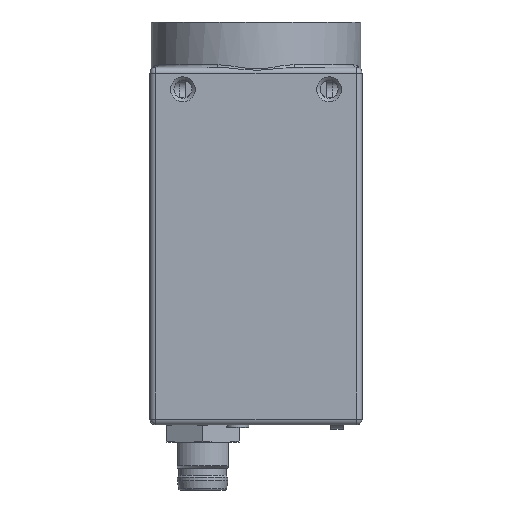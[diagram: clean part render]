
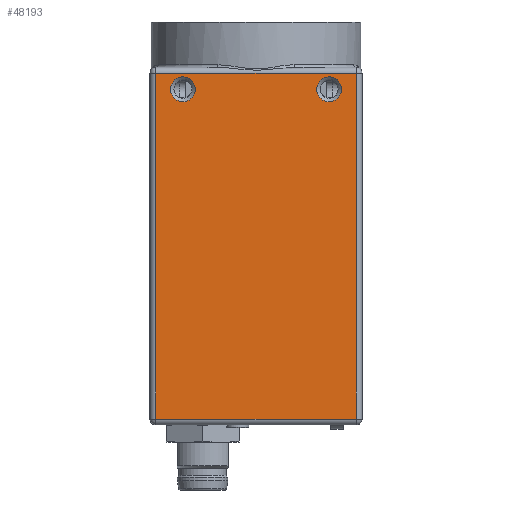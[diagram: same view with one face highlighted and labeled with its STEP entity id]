
A CAD part, left-side view. The second image highlights one B-rep face of the part: STEP entity #48193.
In plain terms, the highlighted planar face has unit normal (-1, 0, 0).
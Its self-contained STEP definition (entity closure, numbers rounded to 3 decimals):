
#2110=CIRCLE('',#51340,1.7);
#2111=CIRCLE('',#51342,1.7);
#4814=LINE('',#70978,#7629);
#4827=LINE('',#71024,#7642);
#4853=LINE('',#71155,#7668);
#4888=LINE('',#71269,#7703);
#7629=VECTOR('',#59992,1000.);
#7642=VECTOR('',#60047,1000.);
#7668=VECTOR('',#60151,1000.);
#7703=VECTOR('',#60250,1000.);
#15572=ORIENTED_EDGE('',*,*,#21115,.T.);
#15573=ORIENTED_EDGE('',*,*,#21114,.T.);
#15574=ORIENTED_EDGE('',*,*,#21230,.T.);
#15575=ORIENTED_EDGE('',*,*,#21134,.T.);
#15576=ORIENTED_EDGE('',*,*,#21113,.T.);
#15577=ORIENTED_EDGE('',*,*,#21180,.T.);
#21113=EDGE_CURVE('',#24617,#24643,#4814,.T.);
#21114=EDGE_CURVE('',#24681,#24681,#2110,.T.);
#21115=EDGE_CURVE('',#24682,#24682,#2111,.T.);
#21134=EDGE_CURVE('',#24693,#24617,#4827,.F.);
#21180=EDGE_CURVE('',#24643,#24724,#4853,.T.);
#21230=EDGE_CURVE('',#24724,#24693,#4888,.T.);
#24617=VERTEX_POINT('',#70696);
#24643=VERTEX_POINT('',#70863);
#24681=VERTEX_POINT('',#70981);
#24682=VERTEX_POINT('',#70984);
#24693=VERTEX_POINT('',#71025);
#24724=VERTEX_POINT('',#71154);
#27836=EDGE_LOOP('',(#15572));
#27837=EDGE_LOOP('',(#15573));
#27838=EDGE_LOOP('',(#15574,#15575,#15576,#15577));
#30566=FACE_BOUND('',#27836,.T.);
#30567=FACE_BOUND('',#27837,.T.);
#30568=FACE_BOUND('',#27838,.T.);
#32078=PLANE('',#51430);
#48193=ADVANCED_FACE('',(#30566,#30567,#30568),#32078,.T.);
#51340=AXIS2_PLACEMENT_3D('',#70980,#59995,#59996);
#51342=AXIS2_PLACEMENT_3D('',#70983,#59999,#60000);
#51430=AXIS2_PLACEMENT_3D('',#71268,#60248,#60249);
#59992=DIRECTION('',(0.,1.,0.));
#59995=DIRECTION('',(1.,0.,0.));
#59996=DIRECTION('',(0.,1.,0.));
#59999=DIRECTION('',(1.,0.,0.));
#60000=DIRECTION('',(0.,1.,0.));
#60047=DIRECTION('',(0.,0.,-1.));
#60151=DIRECTION('',(0.,0.,-1.));
#60248=DIRECTION('',(-1.,0.,0.));
#60249=DIRECTION('',(0.,0.,1.));
#60250=DIRECTION('',(0.,-1.,0.));
#70696=CARTESIAN_POINT('',(-14.5,-13.7,11.4));
#70863=CARTESIAN_POINT('',(-14.5,13.7,11.4));
#70978=CARTESIAN_POINT('',(-14.5,14.5,11.4));
#70980=CARTESIAN_POINT('',(-14.5,10.,9.2));
#70981=CARTESIAN_POINT('',(-14.5,11.7,9.2));
#70983=CARTESIAN_POINT('',(-14.5,-10.,9.2));
#70984=CARTESIAN_POINT('',(-14.5,-8.3,9.2));
#71024=CARTESIAN_POINT('',(-14.5,-13.7,12.2));
#71025=CARTESIAN_POINT('',(-14.5,-13.7,-35.9));
#71154=CARTESIAN_POINT('',(-14.5,13.7,-35.9));
#71155=CARTESIAN_POINT('',(-14.5,13.7,12.2));
#71268=CARTESIAN_POINT('',(-14.5,-14.5,12.2));
#71269=CARTESIAN_POINT('',(-14.5,-14.5,-35.9));
